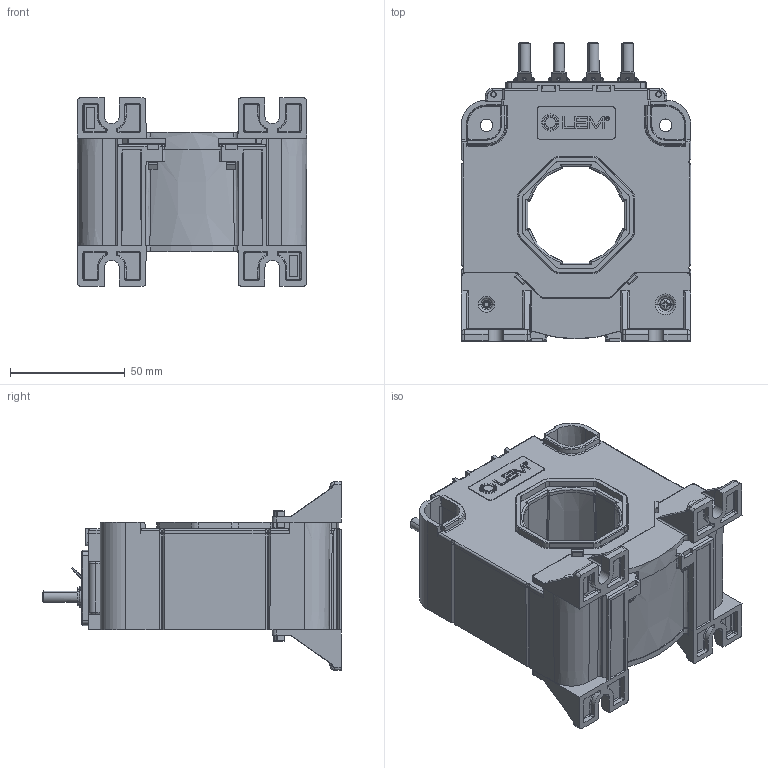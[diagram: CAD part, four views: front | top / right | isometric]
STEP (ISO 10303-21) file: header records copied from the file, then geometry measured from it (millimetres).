
FILE_DESCRIPTION(('Creo Elements/Direct Modeling STEP Export'),'2;1');
FILE_NAME('LTC 600-SF Blackbox.stp','2014-09-22T10:08:38',(''),(''),'Creo Elements/Direct Modeling STEP processor for AP214 (Solid Model)','Creo Elements/Direct Modeling 17.0C 05-Feb-2011 (C) Parametric Technology GmbH','');
FILE_SCHEMA(('AUTOMOTIVE_DESIGN { 1 0 10303 214 1 1 1 1 }'));
Products named in the file (2): LTC600_SF_BBOX
Assembly tree (1 placements, depth 2):
  LTC600_SF_BBOX
    LTC600_SF_BBOX
Bounding box: 100.14 x 130 x 82 mm (x, y, z)
Volume: 1215.6 mm3; surface area: 75190.4 mm2
Topology: 5 solids, 6 shells, 2537 faces, 6719 edges, 4216 vertices
Faces by surface type: plane 1177, cylinder 666, bspline 269, cone 171, extrusion 123, torus 111, sphere 20
Entity records: 113616 total; most frequent: CARTESIAN_POINT 50922, ORIENTED_EDGE 13414, DIRECTION 10308, EDGE_CURVE 6695, VERTEX_POINT 4216, VECTOR 3738, LINE 3619, AXIS2_PLACEMENT_3D 3285
